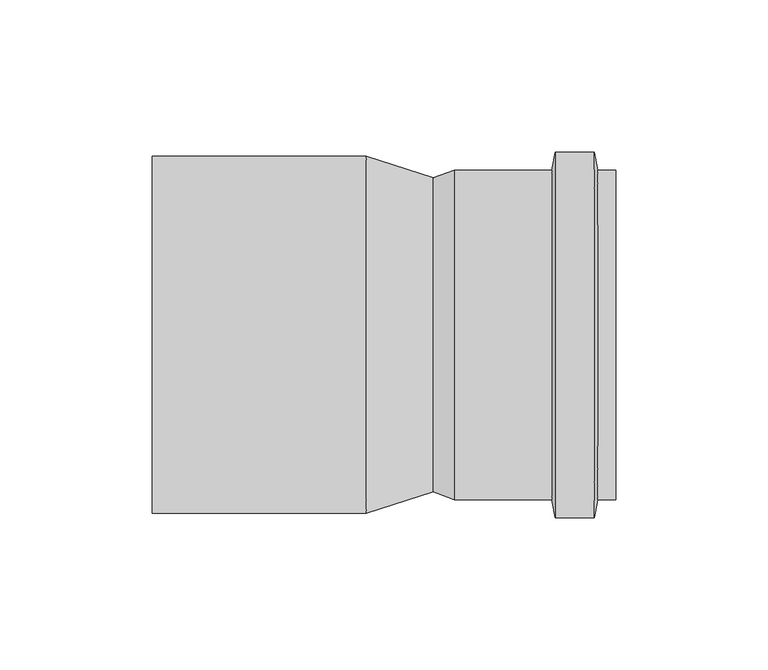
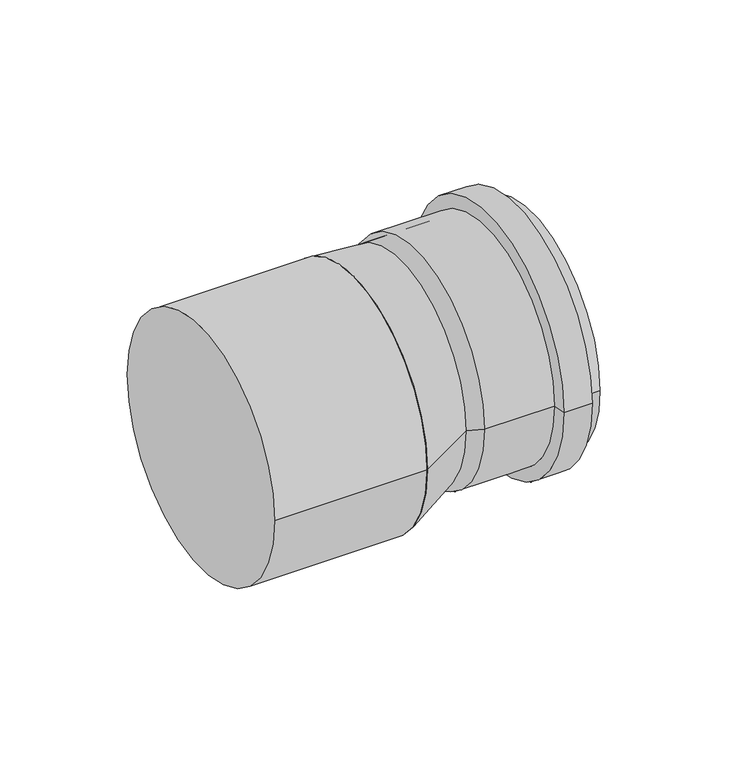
"""IFC4 building model written with IfcOpenShell, lengths in millimetres: pipe fitting geometry, ZZZ_Master 3+ redukcja-sh_Pipelife : DN 32-160 (zagnieżdżony)."""

from ifc_helpers import new_model, si_unit, point, frame, origin, origin_2d, place, context, project, spatial, polyline, circle_curve, trimmed, segment, composite_curve, outline, extrude, source, transform, mapped, element, save
from ifc_brep_helpers import plane_surface, cylinder_surface, revolved_surface, spline_surface, advanced_brep


def pipe_fitting_62d9c38b(model_context):
    return source(origin(), model_context, "Body", "SolidModel", [
        advanced_brep(
        [(46.15, 51.6, 7.0), (46.15, -51.6, 7.0), (106.15, -51.6, 7.0), (106.15, 51.6, 7.0), (53.0186935, 54.1, 7.0), (53.0186935, -54.1, 7.0), (85.15, 54.1, 7.0), (85.15, -54.1, 7.0), (86.1903292, 60.0, 7.0), (86.1903292, -60.0, 7.0), (99.1096708, 60.0, 7.0), (99.1096708, -60.0, 7.0), (100.15, 54.1, 7.0), (100.15, -54.1, 7.0), (106.15, 54.1, 7.0), (106.15, -54.1, 7.0)],
        [
            (0, 1, circle_curve(frame((46.15, 0.0, 7.0), z_axis=(-1.0, 0.0, 0.0), x_axis=(0.0, -1.0000000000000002, 0.0)), 51.6)),
            (1, 2),
            (2, 3, circle_curve(frame((106.15, 0.0, 7.0), z_axis=(1.0, 0.0, 0.0), x_axis=(0.0, -1.0000000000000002, 0.0)), 51.6)),
            (3, 0),
            (1, 0, circle_curve(frame((46.15, 0.0, 7.0), z_axis=(-1.0, 0.0, 0.0), x_axis=(0.0, -1.0000000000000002, 0.0)), 51.6)),
            (3, 2, circle_curve(frame((106.15, 0.0, 7.0), z_axis=(1.0, 0.0, 0.0), x_axis=(0.0, -1.0000000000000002, 0.0)), 51.6)),
            (4, 5, circle_curve(frame((53.0186935, 0.0, 7.0), z_axis=(-1.0, 0.0, 0.0), x_axis=(0.0, -1.0000000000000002, 0.0)), 54.1)),
            (5, 1),
            (0, 4),
            (5, 4, circle_curve(frame((53.0186935, 0.0, 7.0), z_axis=(-1.0, 0.0, 0.0), x_axis=(0.0, -1.0000000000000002, 0.0)), 54.1)),
            (6, 7, circle_curve(frame((85.15, 0.0, 7.0), z_axis=(-1.0, 0.0, 0.0), x_axis=(0.0, -1.0000000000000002, 0.0)), 54.1)),
            (7, 5),
            (4, 6),
            (7, 6, circle_curve(frame((85.15, 0.0, 7.0), z_axis=(-1.0, 0.0, 0.0), x_axis=(0.0, -1.0000000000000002, 0.0)), 54.1)),
            (8, 9, circle_curve(frame((86.1903292, 0.0, 7.0), z_axis=(-1.0, 0.0, 0.0), x_axis=(0.0, -1.0000000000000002, 0.0)), 60.0)),
            (9, 7),
            (6, 8),
            (9, 8, circle_curve(frame((86.1903292, 0.0, 7.0), z_axis=(-1.0, 0.0, 0.0), x_axis=(0.0, -1.0000000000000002, 0.0)), 60.0)),
            (10, 11, circle_curve(frame((99.1096708, 0.0, 7.0), z_axis=(-1.0, 0.0, 0.0), x_axis=(0.0, -1.0000000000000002, 0.0)), 60.0)),
            (11, 9),
            (8, 10),
            (11, 10, circle_curve(frame((99.1096708, 0.0, 7.0), z_axis=(-1.0, 0.0, 0.0), x_axis=(0.0, -1.0000000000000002, 0.0)), 60.0)),
            (12, 13, circle_curve(frame((100.15, 0.0, 7.0), z_axis=(-1.0, 0.0, 0.0), x_axis=(0.0, -1.0000000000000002, 0.0)), 54.1)),
            (13, 11),
            (10, 12),
            (13, 12, circle_curve(frame((100.15, 0.0, 7.0), z_axis=(-1.0, 0.0, 0.0), x_axis=(0.0, -1.0000000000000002, 0.0)), 54.1)),
            (14, 15, circle_curve(frame((106.15, 0.0, 7.0), z_axis=(-1.0, 0.0, 0.0), x_axis=(0.0, -1.0000000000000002, 0.0)), 54.1)),
            (15, 13),
            (12, 14),
            (15, 14, circle_curve(frame((106.15, 0.0, 7.0), z_axis=(-1.0, 0.0, 0.0), x_axis=(0.0, -1.0000000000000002, 0.0)), 54.1)),
            (2, 15),
            (14, 3),
        ],
        [
            revolved_surface(polyline([(106.15, -51.600000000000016, 7.0), (46.14999999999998, -51.600000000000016, 7.0)]), (116.15, 0.0, 7.0), (1.0000000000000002, 0.0, 0.0)),
            revolved_surface(polyline([(46.15, -51.6, 7.0), (53.0186935, -54.1, 7.0)]), (116.15, 0.0, 7.0), (1.0000000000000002, 0.0, 0.0)),
            cylinder_surface(frame((116.15, 0.0, 7.0), z_axis=(1.0000000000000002, 0.0, 0.0), x_axis=(0.0, -1.0000000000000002, 0.0)), 54.1),
            revolved_surface(polyline([(85.15, -54.1, 7.0), (86.1903292, -60.0, 7.0)]), (116.15, 0.0, 7.0), (1.0000000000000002, 0.0, 0.0)),
            cylinder_surface(frame((116.15, 0.0, 7.0), z_axis=(1.0000000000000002, 0.0, 0.0), x_axis=(0.0, -1.0000000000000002, 0.0)), 60.0),
            revolved_surface(polyline([(99.1096708, -60.0, 7.0), (100.15, -54.1, 7.0)]), (116.15, 0.0, 7.0), (1.0000000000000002, 0.0, 0.0)),
            plane_surface(frame((106.15, 0.0, 7.0), z_axis=(1.0, 0.0, 0.0), x_axis=(0.0, -1.0, 0.0))),
        ],
        [
            (0, [[1, 2, 3, 4]]),
            (0, [[5, -4, 6, -2]]),
            (1, [[7, 8, -1, 9]]),
            (1, [[10, -9, -5, -8]]),
            (2, [[11, 12, -7, 13]]),
            (2, [[14, -13, -10, -12]]),
            (3, [[15, 16, -11, 17]]),
            (3, [[18, -17, -14, -16]]),
            (4, [[19, 20, -15, 21]]),
            (4, [[22, -21, -18, -20]]),
            (5, [[23, 24, -19, 25]]),
            (5, [[26, -25, -22, -24]]),
            (2, [[27, 28, -23, 29]]),
            (2, [[30, -29, -26, -28]]),
            (6, [[-3, 31, -27, 32]]),
            (6, [[-6, -32, -30, -31]]),
        ],
    ),
        advanced_brep(
        [(46.15, -51.6, 7.0), (46.15, 51.6, 7.0), (24.15, -58.6, 0.0), (24.15, 58.6, 0.0)],
        [
            (0, 1, circle_curve(frame((46.15, 0.0, 7.0), z_axis=(1.0, 0.0, 0.0), x_axis=(0.0, 1.0, 0.0)), 51.6)),
            (1, 0, circle_curve(frame((46.15, 0.0, 7.0), z_axis=(1.0, 0.0, 0.0), x_axis=(0.0, 1.0, 0.0)), 51.6)),
            (2, 3, circle_curve(frame((24.15, 0.0, 0.0), z_axis=(-1.0, 0.0, 0.0), x_axis=(0.0, 1.0, 0.0)), 58.6)),
            (3, 2, circle_curve(frame((24.15, 0.0, 0.0), z_axis=(-1.0, 0.0, 0.0), x_axis=(0.0, 1.0, 0.0)), 58.6)),
            (3, 1),
            (0, 2),
        ],
        [
            plane_surface(frame((46.15, 0.0, 7.0), z_axis=(1.0, 0.0, 0.0), x_axis=(0.0, 0.0, -1.0))),
            plane_surface(frame((24.15, 0.0, 0.0), z_axis=(-1.0, 0.0, 0.0), x_axis=(0.0, 0.0, -1.0))),
            spline_surface(2, 1, [[(24.15, -58.6, 0.0), (46.15, -51.6, 7.0)], [(24.15, -58.6, -58.6), (46.15, -51.6, -44.6)], [(24.15, 0.0, -58.6), (46.15, 0.0, -44.6)], [(24.15, 58.6, -58.6), (46.15, 51.6, -44.6)], [(24.15, 58.6, 0.0), (46.15, 51.6, 7.0)]], [3, 2, 3], [2, 2], [0.0, 1.0, 2.0], [0.0, 1.0], weights=[[1.0, 1.0], [0.7071067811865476, 0.7071067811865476], [1.0, 1.0], [0.7071067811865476, 0.7071067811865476], [1.0, 1.0]]),
            spline_surface(2, 1, [[(24.15, 58.6, 0.0), (46.15, 51.6, 7.0)], [(24.15, 58.6, 58.6), (46.15, 51.6, 58.6)], [(24.15, 0.0, 58.6), (46.15, 0.0, 58.6)], [(24.15, -58.6, 58.6), (46.15, -51.6, 58.6)], [(24.15, -58.6, 0.0), (46.15, -51.6, 7.0)]], [3, 2, 3], [2, 2], [0.0, 1.0, 2.0], [0.0, 1.0], weights=[[1.0, 1.0], [0.7071067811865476, 0.7071067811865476], [1.0, 1.0], [0.7071067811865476, 0.7071067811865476], [1.0, 1.0]]),
        ],
        [
            (0, [[1, 2]]),
            (1, [[3, 4]]),
            (2, [[-4, 5, -1, 6]]),
            (3, [[-3, -6, -2, -5]]),
        ],
    ),
        extrude(outline(composite_curve([segment(trimmed(circle_curve(origin_2d(), 58.6), [point((-58.6, 0.0))], [point((58.6, 0.0))], False, "CARTESIAN"), True, "CONTINUOUS"), segment(trimmed(circle_curve(origin_2d(), 58.6), [point((58.6, 0.0))], [point((-58.6, 0.0))], False, "CARTESIAN"), True, "CONTINUOUS")], self_intersect=False)), frame((-46.15, 0.0, 0.0), z_axis=(1.0, 0.0, 0.0), x_axis=(0.0, 1.0, 0.0)), (0.0, 0.0, 1.0), 70.3),
    ])


if __name__ == "__main__":
    model = new_model("IFC4")
    model_context = context("Model", 3, world=origin())
    ifc_project = project(units=[si_unit("LENGTHUNIT", "METRE", prefix="MILLI")], contexts=[model_context])
    site = spatial("IfcSite", under=ifc_project)
    building = spatial("IfcBuilding", under=site)
    placement = place(None, origin())
    pipe_fitting_shape = pipe_fitting_62d9c38b(model_context)
    element("IfcPipeFitting", 1, ObjectType="ZZZ_Master 3+ redukcja-sh_Pipelife : DN 32-160 (zagnieżdżony)", at=placement, inside=building, context=model_context, shape_type="MappedRepresentation", body=[
        mapped(pipe_fitting_shape, transform((0.0, 0.0, 0.0), x_axis=(1.0, 0.0, 0.0), y_axis=(0.0, 1.0, 0.0), z_axis=(0.0, 0.0, 1.0))),
    ])
    save(model, "model.ifc")
